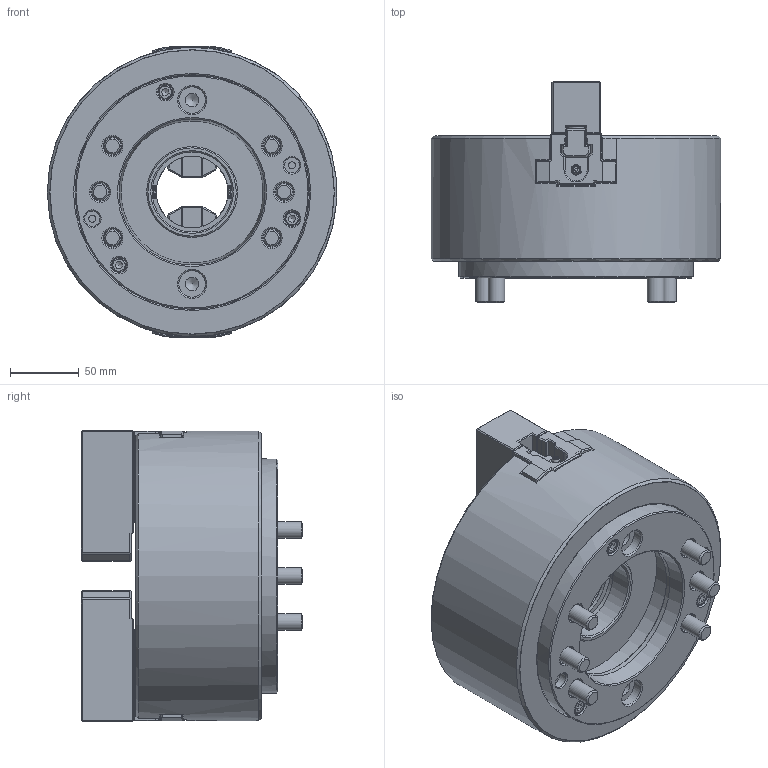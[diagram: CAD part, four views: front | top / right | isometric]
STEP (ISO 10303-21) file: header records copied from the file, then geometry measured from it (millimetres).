
FILE_DESCRIPTION(/* description */ (''),/* implementation_level */ '2;1');
FILE_NAME(/* name */ '\\Itserver\個人資料夾\柯玫如\8.網頁3D討論\1.中空油壓系列\1-1中空油壓夾頭\2.OPT系列\OPT-208\OPT-208-A6.stp',/* time_stamp */ '2024-08-22T08:17:55+08:00',/* author */ ('034'),/* organization */ (''),/* preprocessor_version */ 'ST-DEVELOPER v16.13',/* originating_system */ 'Autodesk Inventor 2018',/* authorisation */ '');
FILE_SCHEMA (('AUTOMOTIVE_DESIGN { 1 0 10303 214 3 1 1 }'));
Products named in the file (1): OPT-208-A6
Bounding box: 209.86 x 160.39 x 211.45 mm (x, y, z)
Volume: 3110517.3 mm3; surface area: 293475.1 mm2
Topology: 1 solids, 21 shells, 4002 faces, 12526 edges, 8026 vertices
Faces by surface type: plane 2458, cylinder 896, bspline 422, cone 161, torus 55, sphere 10
Full cylindrical faces by diameter (mm): 3 x8, 3.8 x4, 4.3 x4, 5 x4, 5.1 x2, 5.2 x2, 5.5 x4, 6 x5, 6.6 x3, 8.6 x6, 9.5 x4, 10 x7, 10.3 x4, 11 x5, 12 x10, 13 x4, 13.5 x12, 18 x10, 19 x4, 19.3 x2, 20 x6, 52 x1, 55.5 x1, 56 x1, 56.2 x1, 56.284 x2, 58 x1, 60.5 x1, 66 x1, 103.2 x1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
Entity records: 138610 total; most frequent: CARTESIAN_POINT 30383, ORIENTED_EDGE 24206, DIRECTION 20337, EDGE_CURVE 12103, LINE 8913, VECTOR 8913, VERTEX_POINT 7900, AXIS2_PLACEMENT_3D 5712
